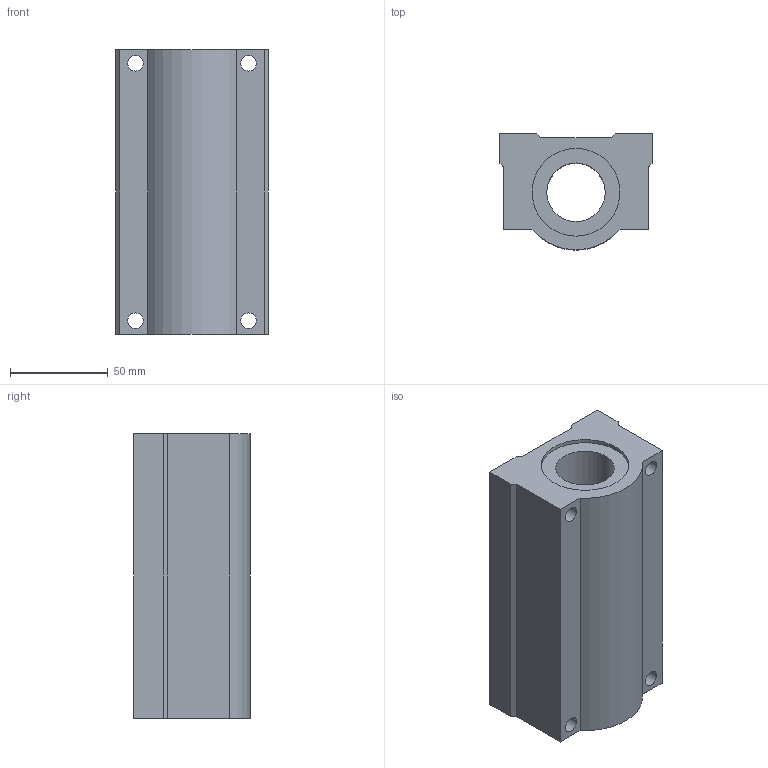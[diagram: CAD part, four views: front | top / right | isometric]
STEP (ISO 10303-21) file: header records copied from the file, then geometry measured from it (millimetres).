
FILE_DESCRIPTION((''),'2;1');
FILE_NAME('C:\Documents and Settings\ｿﾀﾀ蠑ｷ1\ｹﾙﾅﾁ ﾈｭｸ饅\ｺﾎﾇｰﾆﾄﾀﾏ\ﾁｦﾇｰ\SC__WUU\SC30WUU.stp','2005-06-22T14:54:47',('ｿﾀﾀ蠑ｷ1'),(''),'Autodesk Inventor 9','Autodesk Inventor 9','');
FILE_SCHEMA(('AUTOMOTIVE_DESIGN { 1 0 10303 214 1 1 1 1 }'));
Length unit declared in the file: millimetre
Products named in the file (1): SC__UU
Bounding box: 78 x 59.5 x 146 mm (x, y, z)
Volume: 459122.9 mm3; surface area: 62841.6 mm2
Topology: 1 solids, 1 shells, 32 faces, 84 edges, 56 vertices
Faces by surface type: plane 17, bspline 8, cylinder 7
Entity records: 1145 total; most frequent: CARTESIAN_POINT 309, ORIENTED_EDGE 168, DIRECTION 164, EDGE_CURVE 84, VERTEX_POINT 56, AXIS2_PLACEMENT_3D 55, VECTOR 54, LINE 54
